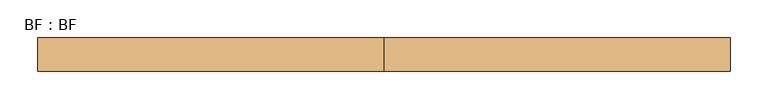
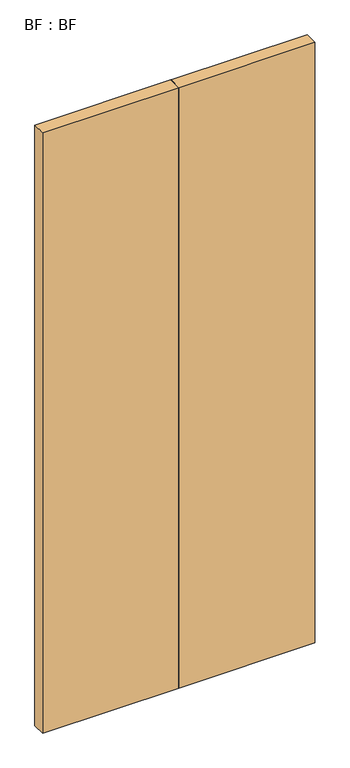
"""IFC4 building model written with IfcOpenShell, lengths in millimetres: door geometry, BF : BF."""

from ifc_helpers import new_model, si_unit, origin, origin_with_axes, place, context, project, spatial, polyline, outline, extrude, source, transform, mapped, element, save


def bf_bf_a610d72d(model_context):
    return source(origin(), model_context, "Body", "SweptSolid", [
        extrude(outline(polyline([(0.0, -22.225), (-457.2, -22.225), (-457.2, 22.225), (0.0, 22.225), (0.0, -22.225)])), origin_with_axes(), (0.0, 0.0, 1.0), 2133.6),
        extrude(outline(polyline([(-914.5984375, -22.225), (-914.5984375, 22.225), (-457.3984375, 22.225), (-457.3984375, -22.225), (-914.5984375, -22.225)])), origin_with_axes(), (0.0, 0.0, 1.0), 2133.6),
    ])


if __name__ == "__main__":
    model = new_model("IFC4")
    model_context = context("Model", 3, world=origin())
    ifc_project = project(units=[si_unit("LENGTHUNIT", "METRE", prefix="MILLI")], contexts=[model_context])
    site = spatial("IfcSite", under=ifc_project)
    building = spatial("IfcBuilding", under=site)
    placement = place(None, origin())
    bf_bf_shape = bf_bf_a610d72d(model_context)
    element("IfcDoor", 1, ObjectType="BF : BF", at=placement, inside=building, context=model_context, shape_type="MappedRepresentation", body=[
        mapped(bf_bf_shape, transform((0.0, 0.0, 0.0), x_axis=(1.0, 0.0, 0.0), y_axis=(0.0, 1.0, 0.0), z_axis=(0.0, 0.0, 1.0))),
    ])
    save(model, "model.ifc")
